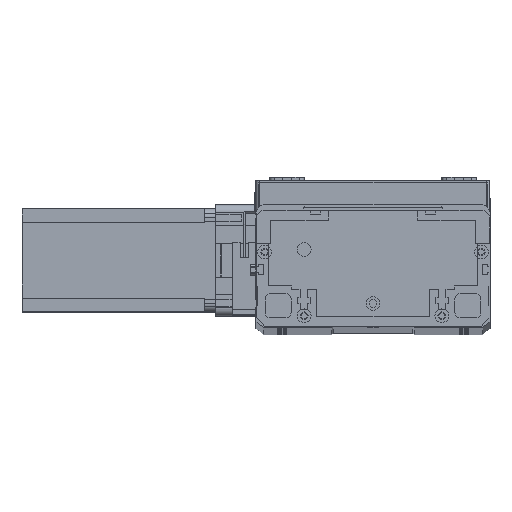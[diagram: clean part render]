
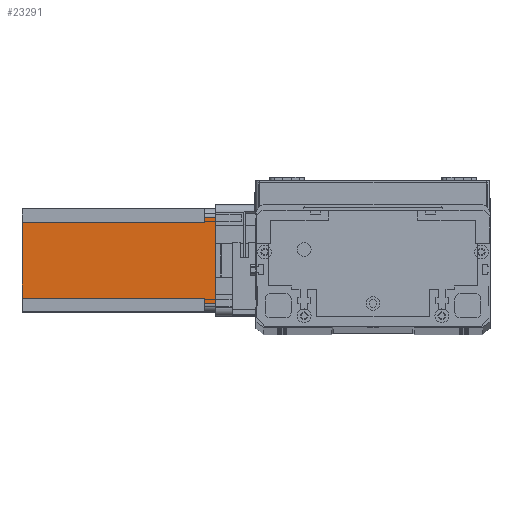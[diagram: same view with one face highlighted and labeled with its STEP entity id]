
A CAD part, top view. The second image highlights one B-rep face of the part: STEP entity #23291.
In plain terms, the highlighted planar face has unit normal (0, 0, 1) as drawn and (0, -1, 0) by its records, which use the part's own axes.
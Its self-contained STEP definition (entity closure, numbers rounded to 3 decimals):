
#127 = EDGE_CURVE ( 'NONE', #4329, #24427, #18281, .T. ) ;
#370 = EDGE_CURVE ( 'NONE', #19755, #25535, #17958, .T. ) ;
#654 = EDGE_CURVE ( 'NONE', #17649, #25535, #13738, .T. ) ;
#690 = EDGE_CURVE ( 'NONE', #4803, #17649, #2386, .T. ) ;
#729 = DIRECTION ( 'NONE',  ( 0., 0., -1. ) ) ;
#848 = CARTESIAN_POINT ( 'NONE',  ( 8., 0., -6.5 ) ) ;
#909 = CARTESIAN_POINT ( 'NONE',  ( 52., 0., -6.5 ) ) ;
#1180 = DIRECTION ( 'NONE',  ( -1., 0., 0. ) ) ;
#1380 = VECTOR ( 'NONE', #7597, 1000. ) ;
#1388 = EDGE_CURVE ( 'NONE', #4803, #2004, #12082, .T. ) ;
#1588 = EDGE_CURVE ( 'NONE', #2802, #2004, #13685, .T. ) ;
#1672 = VECTOR ( 'NONE', #11963, 1000. ) ;
#1728 = VECTOR ( 'NONE', #1180, 1000. ) ;
#1930 = PLANE ( 'NONE',  #16422 ) ;
#2004 = VERTEX_POINT ( 'NONE', #18344 ) ;
#2386 = LINE ( 'NONE', #21308, #7395 ) ;
#2802 = VERTEX_POINT ( 'NONE', #24623 ) ;
#2845 = CARTESIAN_POINT ( 'NONE',  ( 55., 0., 0. ) ) ;
#3148 = EDGE_CURVE ( 'NONE', #19755, #24427, #13607, .T. ) ;
#3596 = ORIENTED_EDGE ( 'NONE', *, *, #1388, .T. ) ;
#4075 = DIRECTION ( 'NONE',  ( 0., -1., 0. ) ) ;
#4329 = VERTEX_POINT ( 'NONE', #16664 ) ;
#4731 = FACE_OUTER_BOUND ( 'NONE', #6547, .T. ) ;
#4758 = ORIENTED_EDGE ( 'NONE', *, *, #26586, .T. ) ;
#4803 = VERTEX_POINT ( 'NONE', #20516 ) ;
#4846 = ORIENTED_EDGE ( 'NONE', *, *, #654, .F. ) ;
#6050 = CARTESIAN_POINT ( 'NONE',  ( 0., 0., 0. ) ) ;
#6139 = DIRECTION ( 'NONE',  ( 1., 0., 0. ) ) ;
#6547 = EDGE_LOOP ( 'NONE', ( #4758, #9727, #20170, #21639, #4846, #20332, #3596, #18171 ) ) ;
#7252 = VECTOR ( 'NONE', #6139, 1000. ) ;
#7395 = VECTOR ( 'NONE', #23542, 1000. ) ;
#7597 = DIRECTION ( 'NONE',  ( 0., 0., 1. ) ) ;
#7600 = CARTESIAN_POINT ( 'NONE',  ( 8., 0., -6.5 ) ) ;
#9727 = ORIENTED_EDGE ( 'NONE', *, *, #127, .T. ) ;
#11963 = DIRECTION ( 'NONE',  ( 0., 0., -1. ) ) ;
#12082 = LINE ( 'NONE', #17562, #16965 ) ;
#13607 = LINE ( 'NONE', #6050, #7252 ) ;
#13685 = LINE ( 'NONE', #18580, #1672 ) ;
#13738 = LINE ( 'NONE', #7600, #1728 ) ;
#15496 = CARTESIAN_POINT ( 'NONE',  ( 5., 0., -112.5 ) ) ;
#15981 = CARTESIAN_POINT ( 'NONE',  ( 5., 0., 0. ) ) ;
#16422 = AXIS2_PLACEMENT_3D ( 'NONE', #20793, #4075, #18863 ) ;
#16664 = CARTESIAN_POINT ( 'NONE',  ( 55., 0., -6.5 ) ) ;
#16965 = VECTOR ( 'NONE', #18095, 1000. ) ;
#17557 = LINE ( 'NONE', #909, #22421 ) ;
#17562 = CARTESIAN_POINT ( 'NONE',  ( 0., 0., -112.5 ) ) ;
#17649 = VERTEX_POINT ( 'NONE', #848 ) ;
#17958 = LINE ( 'NONE', #15496, #24053 ) ;
#18095 = DIRECTION ( 'NONE',  ( 1., 0., 0. ) ) ;
#18171 = ORIENTED_EDGE ( 'NONE', *, *, #1588, .F. ) ;
#18281 = LINE ( 'NONE', #20841, #1380 ) ;
#18344 = CARTESIAN_POINT ( 'NONE',  ( 52., 0., -112.5 ) ) ;
#18580 = CARTESIAN_POINT ( 'NONE',  ( 52., 0., -112.5 ) ) ;
#18863 = DIRECTION ( 'NONE',  ( 0., 0., -1. ) ) ;
#19755 = VERTEX_POINT ( 'NONE', #15981 ) ;
#20170 = ORIENTED_EDGE ( 'NONE', *, *, #3148, .F. ) ;
#20332 = ORIENTED_EDGE ( 'NONE', *, *, #690, .F. ) ;
#20516 = CARTESIAN_POINT ( 'NONE',  ( 8., 0., -112.5 ) ) ;
#20793 = CARTESIAN_POINT ( 'NONE',  ( 0., 0., -112.5 ) ) ;
#20841 = CARTESIAN_POINT ( 'NONE',  ( 55., 0., -112.5 ) ) ;
#21308 = CARTESIAN_POINT ( 'NONE',  ( 8., 0., -112.5 ) ) ;
#21639 = ORIENTED_EDGE ( 'NONE', *, *, #370, .T. ) ;
#22421 = VECTOR ( 'NONE', #25983, 1000. ) ;
#23291 = ADVANCED_FACE ( 'NONE', ( #4731 ), #1930, .T. ) ;
#23542 = DIRECTION ( 'NONE',  ( 0., 0., 1. ) ) ;
#24053 = VECTOR ( 'NONE', #729, 1000. ) ;
#24427 = VERTEX_POINT ( 'NONE', #2845 ) ;
#24623 = CARTESIAN_POINT ( 'NONE',  ( 52., 0., -6.5 ) ) ;
#25329 = CARTESIAN_POINT ( 'NONE',  ( 5., 0., -6.5 ) ) ;
#25535 = VERTEX_POINT ( 'NONE', #25329 ) ;
#25983 = DIRECTION ( 'NONE',  ( 1., 0., 0. ) ) ;
#26586 = EDGE_CURVE ( 'NONE', #2802, #4329, #17557, .T. ) ;
